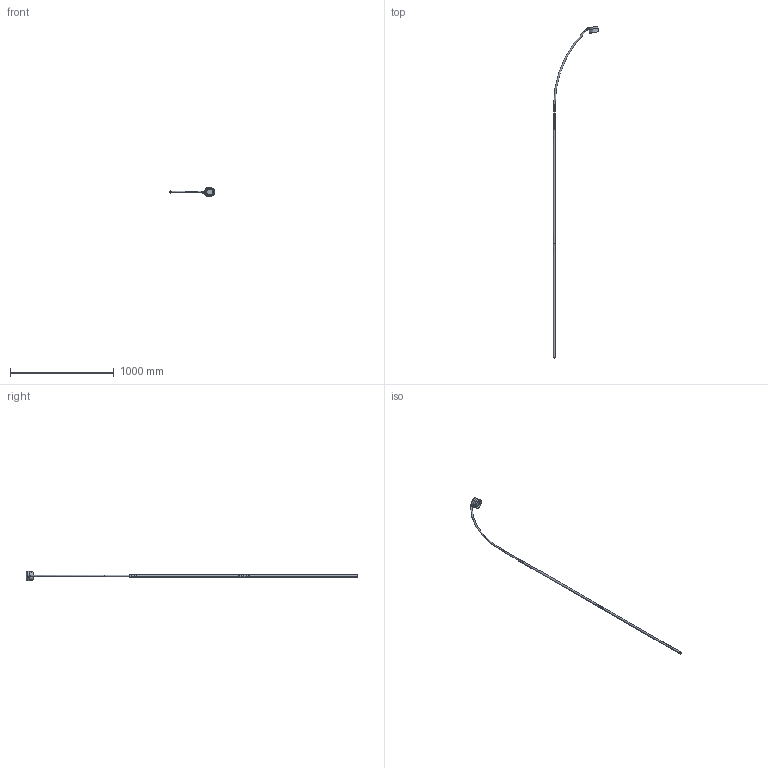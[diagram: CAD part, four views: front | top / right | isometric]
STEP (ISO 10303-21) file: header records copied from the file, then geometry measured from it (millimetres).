
FILE_DESCRIPTION((''),'2;1');
FILE_NAME('HASTA-DOPPIA-BASE_SW0001','2025-05-27T11:22:18',('elena.baldelli'),(''),'CREO PARAMETRIC BY PTC INC, 2020354','CREO PARAMETRIC BY PTC INC, 2020354','');
FILE_SCHEMA(('CONFIG_CONTROL_DESIGN'));
Length unit declared in the file: millimetre
Products named in the file (1): HASTA-DOPPIA-BASE_SW0001
Bounding box: 437.05 x 3201.58 x 91.36 mm (x, y, z)
Surface area: 282203.4 mm2 (no closed solid volume)
Topology: 0 solids, 11 shells, 55 faces, 213 edges, 160 vertices
Faces by surface type: cylinder 16, cone 13, plane 12, torus 11, bspline 3
Entity records: 4919 total; most frequent: CARTESIAN_POINT 3137, DIRECTION 375, ORIENTED_EDGE 304, EDGE_CURVE 213, VERTEX_POINT 160, AXIS2_PLACEMENT_3D 158, CIRCLE 106, EDGE_LOOP 69
